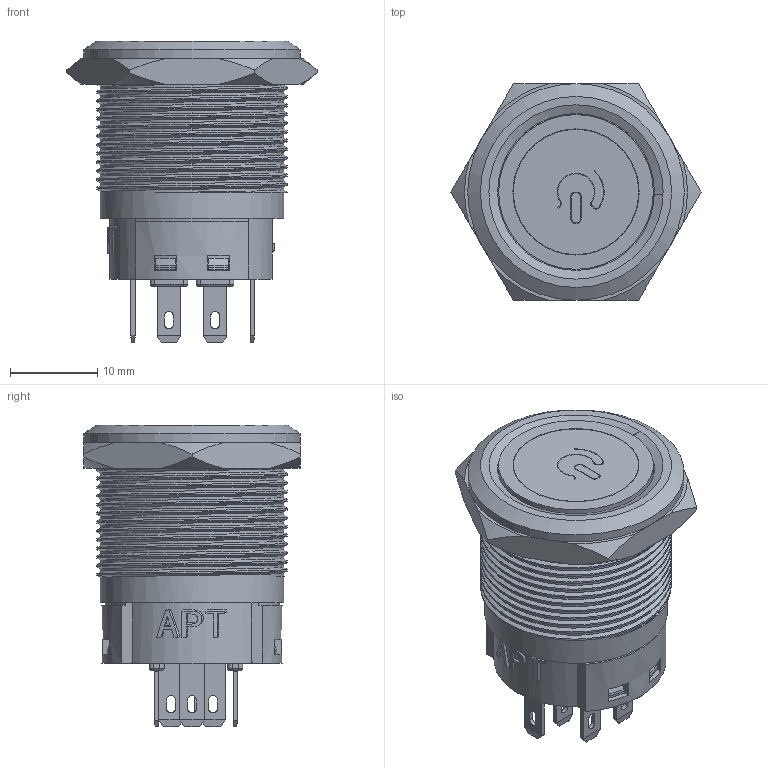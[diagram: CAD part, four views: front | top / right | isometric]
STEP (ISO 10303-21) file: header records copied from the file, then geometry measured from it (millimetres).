
FILE_DESCRIPTION(/* description */ (''),/* implementation_level */ '2;1');
FILE_NAME(/* name */ 'FM22N-SFP-11D1S1.prt.stp',/* time_stamp */ '2020-08-04T16:32:55+08:00',/* author */ (''),/* organization */ (''),/* preprocessor_version */ 'ST-DEVELOPER v16.7',/* originating_system */ 'SIEMENS PLM Software NX 12.0',/* authorisation */ '');
FILE_SCHEMA (('AUTOMOTIVE_DESIGN { 1 0 10303 214 3 1 1 1 }'));
Length unit declared in the file: millimetre
Products named in the file (1): Admi4F983F75j3a2
Bounding box: 28.64 x 24.8 x 34.55 mm (x, y, z)
Volume: 5099.4 mm3; surface area: 9447.1 mm2
Topology: 4 solids, 8 shells, 1386 faces, 3976 edges, 2587 vertices
Faces by surface type: plane 947, cylinder 237, extrusion 84, torus 64, cone 43, bspline 9, sphere 2
Full cylindrical faces by diameter (mm): 1.2 x4, 2 x3, 6 x1, 10.55 x1, 10.8 x1, 11.2 x1, 13.85 x1, 13.95 x1, 14.35 x1, 14.45 x1, 17.7 x1, 17.95 x1, 20.2 x1, 21 x13, 24.8 x1
Entity records: 59054 total; most frequent: CARTESIAN_POINT 18400, ORIENTED_EDGE 7768, DIRECTION 6807, EDGE_CURVE 3884, VECTOR 2915, LINE 2831, VERTEX_POINT 2542, AXIS2_PLACEMENT_3D 1946
